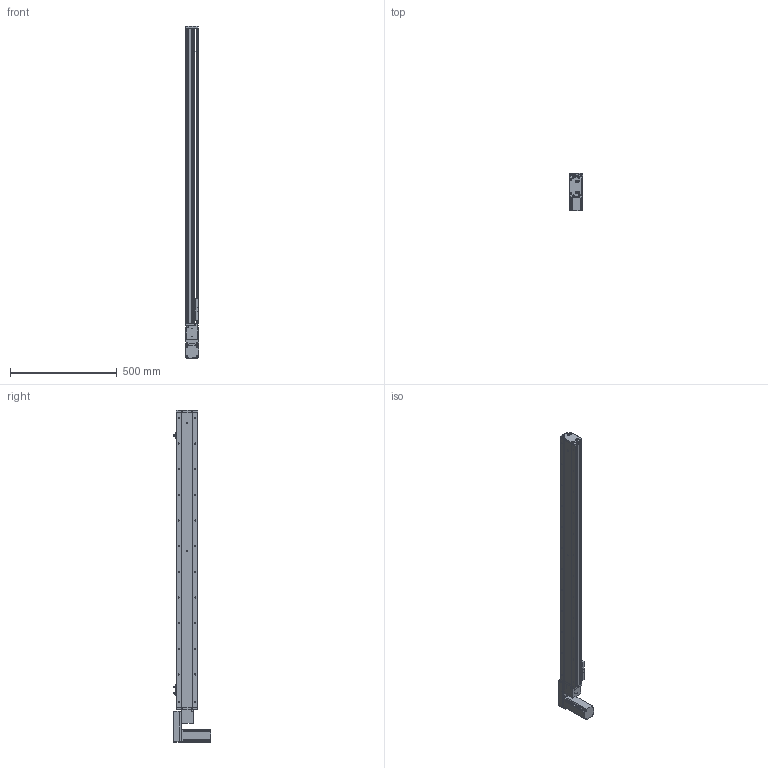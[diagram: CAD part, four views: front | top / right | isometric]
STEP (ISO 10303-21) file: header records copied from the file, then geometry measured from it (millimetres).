
FILE_DESCRIPTION (( 'STEP AP214' ), '1' );
FILE_NAME ('KSD100B-S1200-MLB-CM.STEP', '2019-08-31T02:15:11', ( '微软用户' ), ( '微软中国' ), 'SwSTEP 2.0', 'SolidWorks 2014', '' );
FILE_SCHEMA (( 'AUTOMOTIVE_DESIGN' ));
Length unit declared in the file: millimetre
Products named in the file (12): 悵誘欶奻狟殏; 100宽马达安装板连板上下折丝杆同步带; 台达ECMA－C20604AS伺服电机; U倰嫖萇EEㄜSX672; 覜茼え100遵圉猾敕; 100宽防尘板1200行程-同步带; 100宽马达安装板同步带左; 100宽同步带安装板半封闭; 100宽马达安装板同步带; 100遵傷啣肮祭湍; 100宽底板半封闭同步带1200行程; KSD100B-S1200-MLB-CM
Assembly tree (13 placements, depth 2):
  KSD100B-S1200-MLB-CM
    100宽底板半封闭同步带1200行程
    100遵傷啣肮祭湍
    100宽马达安装板同步带
    100宽同步带安装板半封闭
    100宽马达安装板同步带左
    100宽防尘板1200行程-同步带
    覜茼え100遵圉猾敕
    U倰嫖萇EEㄜSX672  x3
    台达ECMA－C20604AS伺服电机
    100宽马达安装板连板上下折丝杆同步带
    悵誘欶奻狟殏
Bounding box: 61 x 174.7 x 1553 mm (x, y, z)
Volume: 3231356.7 mm3; surface area: 1084329.8 mm2
Topology: 14 solids, 14 shells, 1529 faces, 4316 edges, 2737 vertices
Faces by surface type: cylinder 779, plane 599, cone 151
Entity records: 55001 total; most frequent: CARTESIAN_POINT 11210, DIRECTION 7500, ORIENTED_EDGE 7236, EDGE_CURVE 3618, AXIS2_PLACEMENT_3D 2749, VERTEX_POINT 2361, LINE 2002, VECTOR 2002
